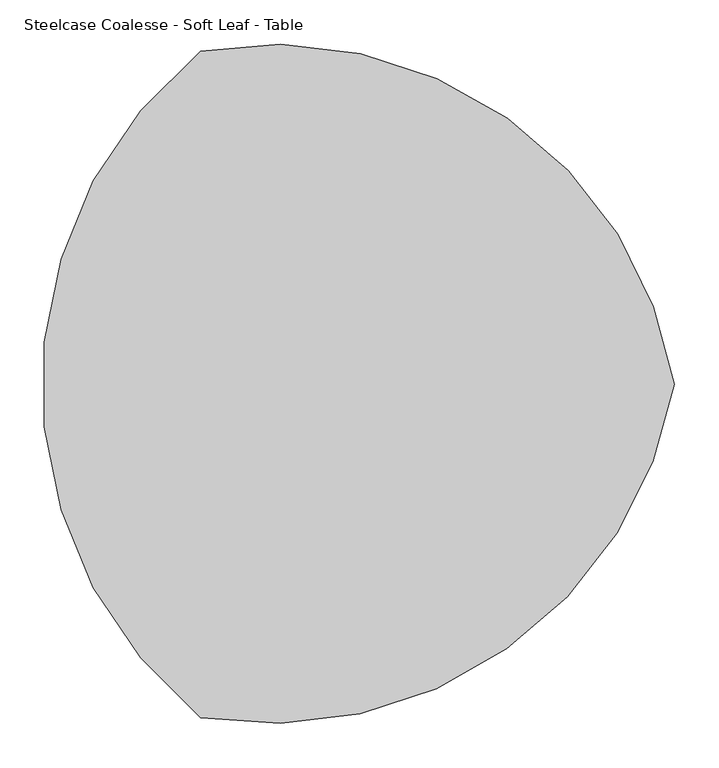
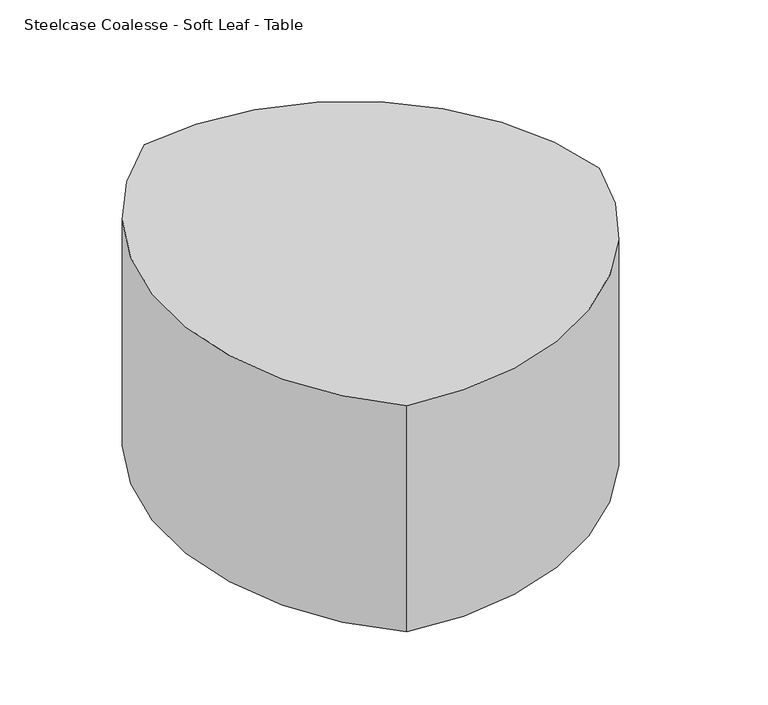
"""IFC4 building model written with IfcOpenShell, lengths in millimetres: furniture geometry, Steelcase Coalesse - Soft Leaf - Table : 29 1/2D x 28W."""

from ifc_helpers import new_model, si_unit, point, frame_2d, origin, origin_with_axes, place, context, project, spatial, circle_curve, trimmed, segment, composite_curve, outline, extrude, source, transform, mapped, element, save


def steelcase_coalesse_soft_leaf_table_23308859(model_context):
    return source(origin(), model_context, "Body", "SweptSolid", [
        extrude(outline(composite_curve([segment(trimmed(circle_curve(frame_2d((737.6519864, -203.1882227)), 483.6427395), [point((431.796302, -577.8381924))], [point((431.796302, 171.4617471))], False, "CARTESIAN"), True, "CONTINUOUS"), segment(trimmed(circle_curve(frame_2d((514.105582, -278.3795481)), 457.3095324), [point((431.796302, 171.4617471))], [point((965.1932053, -203.2))], False, "CARTESIAN"), True, "CONTINUOUS"), segment(trimmed(circle_curve(frame_2d((510.5988922, -122.9994661)), 461.6146826), [point((965.1932053, -203.2))], [point((431.796302, -577.8381924))], False, "CARTESIAN"), True, "CONTINUOUS")], self_intersect=False)), origin_with_axes(), (0.0, 0.0, 1.0), 393.701882),
    ])


if __name__ == "__main__":
    model = new_model("IFC4")
    model_context = context("Model", 3, world=origin())
    ifc_project = project(units=[si_unit("LENGTHUNIT", "METRE", prefix="MILLI")], contexts=[model_context])
    site = spatial("IfcSite", under=ifc_project)
    building = spatial("IfcBuilding", under=site)
    placement = place(None, origin())
    steelcase_coalesse_soft_leaf_table_shape = steelcase_coalesse_soft_leaf_table_23308859(model_context)
    element("IfcFurniture", 1, ObjectType="Steelcase Coalesse - Soft Leaf - Table : 29 1/2D x 28W", at=placement, inside=building, context=model_context, shape_type="MappedRepresentation", body=[
        mapped(steelcase_coalesse_soft_leaf_table_shape, transform((0.0, 0.0, 0.0), x_axis=(1.0, 0.0, 0.0), y_axis=(0.0, 1.0, 0.0), z_axis=(0.0, 0.0, 1.0))),
    ])
    save(model, "model.ifc")
